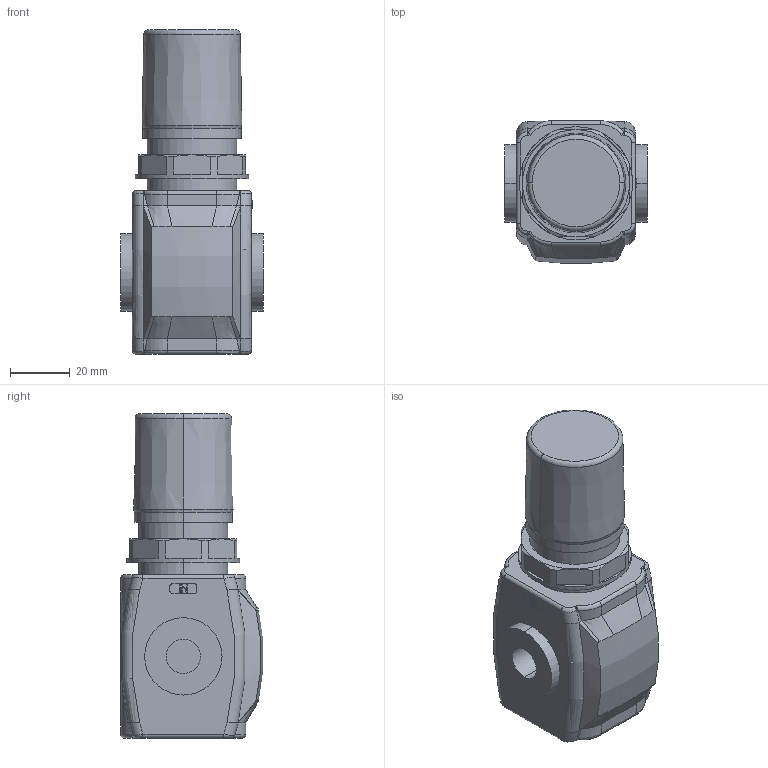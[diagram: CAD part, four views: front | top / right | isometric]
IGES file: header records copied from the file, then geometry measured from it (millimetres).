
Global section: file name: No Iges File Name specified; native system: Autodesk Inventor 2010; preprocessor: AutoDesk Inventor Iges Exporter R2010; author: valotma1; date: 20100911.094241; units: millimetre
Bounding box: 48 x 47.82 x 109 mm (x, y, z)
Volume: 144416.8 mm3; surface area: 25387.1 mm2
Topology: 5 solids, 5 shells, 343 faces, 814 edges, 516 vertices
Faces by surface type: plane 142, bspline 82, cylinder 54, revolution 33, torus 22, cone 10
